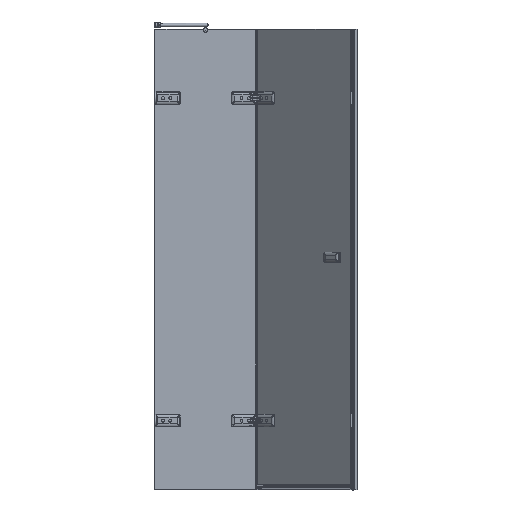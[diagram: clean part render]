
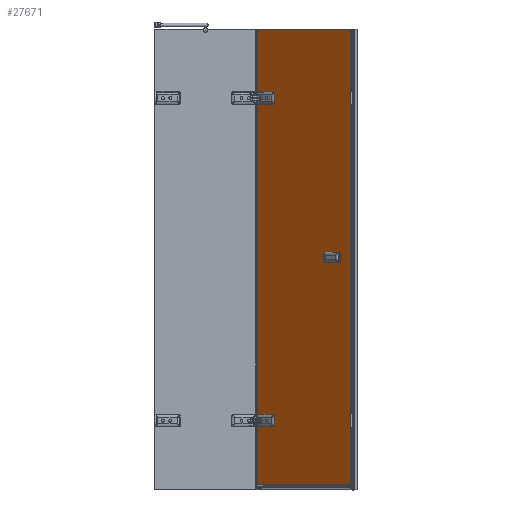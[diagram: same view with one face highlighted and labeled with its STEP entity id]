
A CAD part, left-side view. The second image highlights one B-rep face of the part: STEP entity #27671.
In plain terms, the highlighted planar face has unit normal (-0.707, 0.707, 0).
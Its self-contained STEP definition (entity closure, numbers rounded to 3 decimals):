
#285=FACE_BOUND($,#4816,.T.);
#286=FACE_BOUND($,#4817,.T.);
#287=FACE_BOUND($,#4818,.T.);
#1715=PLANE($,#30039);
#4816=EDGE_LOOP($,(#23524));
#4817=EDGE_LOOP($,(#23525));
#4818=EDGE_LOOP($,(#23526,#23527,#23528,#23529,#23530,#23531,#23532,#23533,
#23534,#23535,#23536,#23537,#23538,#23539,#23540,#23541));
#5392=CIRCLE($,#28601,6.5);
#5649=CIRCLE($,#29257,6.5);
#5911=CIRCLE($,#30040,10.);
#5912=CIRCLE($,#30041,10.);
#5913=CIRCLE($,#30042,10.);
#5914=CIRCLE($,#30043,10.);
#6687=LINE($,#56070,#9074);
#7415=LINE($,#59456,#9802);
#7432=LINE($,#59735,#9819);
#7660=LINE($,#61680,#10047);
#7692=LINE($,#61779,#10079);
#8044=LINE($,#62950,#10431);
#8060=LINE($,#63016,#10447);
#8090=LINE($,#63259,#10477);
#8093=LINE($,#63264,#10480);
#8094=LINE($,#63268,#10481);
#8095=LINE($,#63271,#10482);
#8096=LINE($,#63275,#10483);
#9074=VECTOR($,#32860,1362.);
#9802=VECTOR($,#34908,281.);
#9819=VECTOR($,#34989,569.548);
#10047=VECTOR($,#35707,1980.);
#10079=VECTOR($,#35779,569.548);
#10431=VECTOR($,#36613,31.271);
#10447=VECTOR($,#36655,261.);
#10477=VECTOR($,#36749,31.271);
#10480=VECTOR($,#36754,31.271);
#10481=VECTOR($,#36757,18.);
#10482=VECTOR($,#36760,31.271);
#10483=VECTOR($,#36763,18.);
#11467=VERTEX_POINT($,#55124);
#11652=VERTEX_POINT($,#56068);
#11653=VERTEX_POINT($,#56069);
#12176=VERTEX_POINT($,#58496);
#12366=VERTEX_POINT($,#59453);
#12367=VERTEX_POINT($,#59455);
#12401=VERTEX_POINT($,#59734);
#12673=VERTEX_POINT($,#61679);
#12696=VERTEX_POINT($,#61778);
#12933=VERTEX_POINT($,#62949);
#12946=VERTEX_POINT($,#63015);
#12988=VERTEX_POINT($,#63258);
#12989=VERTEX_POINT($,#63263);
#12990=VERTEX_POINT($,#63265);
#12991=VERTEX_POINT($,#63267);
#12992=VERTEX_POINT($,#63270);
#12993=VERTEX_POINT($,#63272);
#12994=VERTEX_POINT($,#63274);
#14234=EDGE_CURVE($,#11467,#11467,#5392,.T.);
#14528=EDGE_CURVE($,#11652,#11653,#6687,.T.);
#15324=EDGE_CURVE($,#12176,#12176,#5649,.T.);
#15625=EDGE_CURVE($,#12367,#12366,#7415,.T.);
#15670=EDGE_CURVE($,#12367,#12401,#7432,.T.);
#16052=EDGE_CURVE($,#12401,#12673,#7660,.T.);
#16091=EDGE_CURVE($,#12696,#12673,#7692,.T.);
#16520=EDGE_CURVE($,#12933,#11652,#8044,.T.);
#16545=EDGE_CURVE($,#12946,#12696,#8060,.T.);
#16603=EDGE_CURVE($,#12988,#12946,#8090,.T.);
#16606=EDGE_CURVE($,#12366,#12989,#8093,.T.);
#16607=EDGE_CURVE($,#12990,#12989,#5911,.T.);
#16608=EDGE_CURVE($,#12990,#12991,#8094,.T.);
#16609=EDGE_CURVE($,#12933,#12991,#5912,.T.);
#16610=EDGE_CURVE($,#11653,#12992,#8095,.T.);
#16611=EDGE_CURVE($,#12993,#12992,#5913,.T.);
#16612=EDGE_CURVE($,#12993,#12994,#8096,.T.);
#16613=EDGE_CURVE($,#12988,#12994,#5914,.T.);
#23524=ORIENTED_EDGE($,*,*,#14234,.T.);
#23525=ORIENTED_EDGE($,*,*,#15324,.T.);
#23526=ORIENTED_EDGE($,*,*,#16052,.F.);
#23527=ORIENTED_EDGE($,*,*,#15670,.F.);
#23528=ORIENTED_EDGE($,*,*,#15625,.T.);
#23529=ORIENTED_EDGE($,*,*,#16606,.T.);
#23530=ORIENTED_EDGE($,*,*,#16607,.F.);
#23531=ORIENTED_EDGE($,*,*,#16608,.T.);
#23532=ORIENTED_EDGE($,*,*,#16609,.F.);
#23533=ORIENTED_EDGE($,*,*,#16520,.T.);
#23534=ORIENTED_EDGE($,*,*,#14528,.T.);
#23535=ORIENTED_EDGE($,*,*,#16610,.T.);
#23536=ORIENTED_EDGE($,*,*,#16611,.F.);
#23537=ORIENTED_EDGE($,*,*,#16612,.T.);
#23538=ORIENTED_EDGE($,*,*,#16613,.F.);
#23539=ORIENTED_EDGE($,*,*,#16603,.T.);
#23540=ORIENTED_EDGE($,*,*,#16545,.T.);
#23541=ORIENTED_EDGE($,*,*,#16091,.T.);
#27671=ADVANCED_FACE($,(#285,#286,#287),#1715,.T.);
#28601=AXIS2_PLACEMENT_3D($,#55125,#32286,#32287);
#29257=AXIS2_PLACEMENT_3D($,#58497,#34321,#34322);
#30039=AXIS2_PLACEMENT_3D($,#63262,#36752,#36753);
#30040=AXIS2_PLACEMENT_3D($,#63266,#36755,#36756);
#30041=AXIS2_PLACEMENT_3D($,#63269,#36758,#36759);
#30042=AXIS2_PLACEMENT_3D($,#63273,#36761,#36762);
#30043=AXIS2_PLACEMENT_3D($,#63276,#36764,#36765);
#32286=DIRECTION('center_axis',(0.707,-0.707,0.));
#32287=DIRECTION('ref_axis',(0.707,0.707,0.));
#32860=DIRECTION($,(0.,0.,-1.));
#34321=DIRECTION('center_axis',(0.707,-0.707,0.));
#34322=DIRECTION('ref_axis',(0.707,0.707,0.));
#34908=DIRECTION($,(0.,0.,-1.));
#34989=DIRECTION($,(-0.707,-0.707,0.));
#35707=DIRECTION($,(0.,0.,-1.));
#35779=DIRECTION($,(-0.707,-0.707,0.));
#36613=DIRECTION($,(0.707,0.707,0.));
#36655=DIRECTION($,(0.,0.,-1.));
#36749=DIRECTION($,(0.707,0.707,0.));
#36752=DIRECTION('center_axis',(-0.707,0.707,0.));
#36753=DIRECTION('ref_axis',(-0.707,-0.707,0.));
#36754=DIRECTION($,(-0.707,-0.707,0.));
#36755=DIRECTION('center_axis',(-0.707,0.707,0.));
#36756=DIRECTION('ref_axis',(-0.5,-0.5,0.707));
#36757=DIRECTION($,(0.,0.,-1.));
#36758=DIRECTION('center_axis',(-0.707,0.707,0.));
#36759=DIRECTION('ref_axis',(-0.5,-0.5,-0.707));
#36760=DIRECTION($,(-0.707,-0.707,0.));
#36761=DIRECTION('center_axis',(-0.707,0.707,0.));
#36762=DIRECTION('ref_axis',(-0.5,-0.5,0.707));
#36763=DIRECTION($,(0.,0.,-1.));
#36764=DIRECTION('center_axis',(-0.707,0.707,0.));
#36765=DIRECTION('ref_axis',(-0.5,-0.5,-0.707));
#55124=CARTESIAN_POINT('',(1322.107,350.408,-214.056));
#55125=CARTESIAN_POINT('Origin',(1326.704,355.004,-214.056));
#56068=CARTESIAN_POINT('',(1372.15,400.451,1166.944));
#56069=CARTESIAN_POINT('',(1372.15,400.451,-195.056));
#56070=CARTESIAN_POINT($,(1372.15,400.451,-204.056));
#58496=CARTESIAN_POINT('',(1322.107,350.408,1185.944));
#58497=CARTESIAN_POINT('Origin',(1326.704,355.004,1185.944));
#59453=CARTESIAN_POINT('',(1372.15,400.451,1204.944));
#59455=CARTESIAN_POINT('',(1372.15,400.451,1485.944));
#59456=CARTESIAN_POINT($,(1372.15,400.451,1195.944));
#59734=CARTESIAN_POINT('',(969.419,-2.28,1485.944));
#59735=CARTESIAN_POINT($,(1372.666,400.966,1485.944));
#61679=CARTESIAN_POINT('',(969.419,-2.28,-494.056));
#61680=CARTESIAN_POINT($,(969.419,-2.28,1485.944));
#61778=CARTESIAN_POINT('',(1372.15,400.451,-494.056));
#61779=CARTESIAN_POINT($,(1372.666,400.966,-494.056));
#62949=CARTESIAN_POINT('',(1350.038,378.339,1166.944));
#62950=CARTESIAN_POINT($,(1357.816,386.117,1166.944));
#63015=CARTESIAN_POINT('',(1372.15,400.451,-233.056));
#63016=CARTESIAN_POINT($,(1372.15,400.451,-224.056));
#63258=CARTESIAN_POINT('',(1350.038,378.339,-233.056));
#63259=CARTESIAN_POINT($,(1357.816,386.117,-233.056));
#63262=CARTESIAN_POINT('Origin',(1372.666,400.966,-494.056));
#63263=CARTESIAN_POINT('',(1350.038,378.339,1204.944));
#63264=CARTESIAN_POINT($,(1372.666,400.966,1204.944));
#63265=CARTESIAN_POINT('',(1342.967,371.268,1194.944));
#63266=CARTESIAN_POINT('Origin',(1350.038,378.339,1194.944));
#63267=CARTESIAN_POINT('',(1342.967,371.268,1176.944));
#63268=CARTESIAN_POINT($,(1342.967,371.268,355.444));
#63269=CARTESIAN_POINT('Origin',(1350.038,378.339,1176.944));
#63270=CARTESIAN_POINT('',(1350.038,378.339,-195.056));
#63271=CARTESIAN_POINT($,(1372.666,400.966,-195.056));
#63272=CARTESIAN_POINT('',(1342.967,371.268,-205.056));
#63273=CARTESIAN_POINT('Origin',(1350.038,378.339,-205.056));
#63274=CARTESIAN_POINT('',(1342.967,371.268,-223.056));
#63275=CARTESIAN_POINT($,(1342.967,371.268,-344.556));
#63276=CARTESIAN_POINT('Origin',(1350.038,378.339,-223.056));
